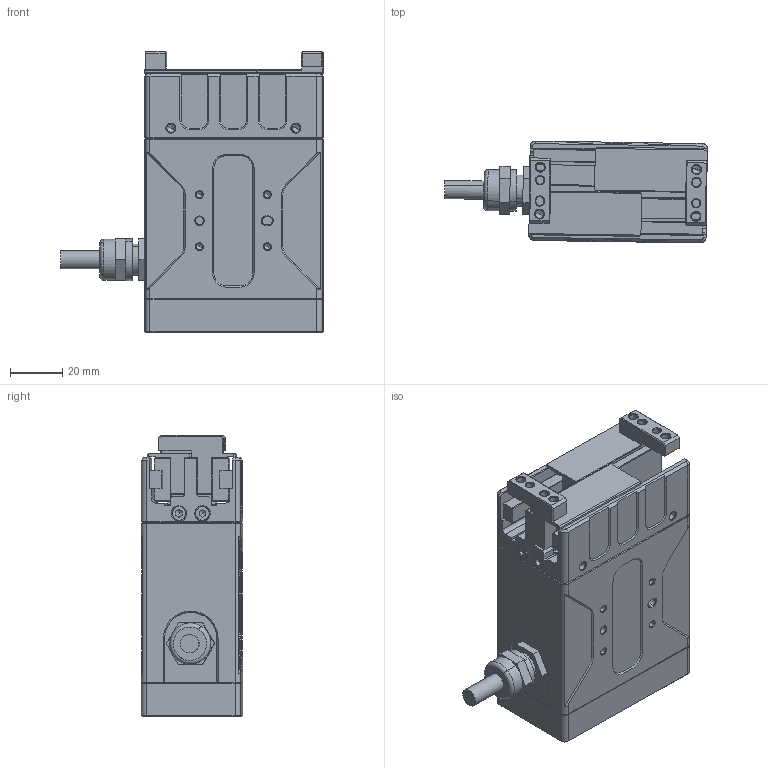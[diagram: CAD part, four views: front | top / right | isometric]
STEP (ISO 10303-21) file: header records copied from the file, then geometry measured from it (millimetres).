
FILE_DESCRIPTION(('CATIA V5 STEP Exchange'),'2;1');
FILE_NAME('E:\工作文件\EFG-50\50ALL-LMC客户图纸\完成\EFG-50 V1.0.stp','2022-06-21T07:06:46+00:00',('none'),('none'),'CATIA Version 5 Release 20 GA (IN-10)','CATIA V5 STEP AP203','none');
FILE_SCHEMA(('CONFIG_CONTROL_DESIGN'));
Length unit declared in the file: millimetre
Products named in the file (1): EFG-50 V1.0
Assembly tree (3 placements, depth 2):
  EFG-50 V1.0
    #58
    #21994
    #25082
Bounding box: 100.78 x 38.92 x 108 mm (x, y, z)
Volume: 243428.2 mm3; surface area: 45920.5 mm2
Topology: 3 solids, 13 shells, 941 faces, 2398 edges, 1502 vertices
Faces by surface type: plane 488, cylinder 228, cone 173, torus 34, bspline 16, extrusion 2
Entity records: 28153 total; most frequent: CARTESIAN_POINT 6868, ORIENTED_EDGE 4724, DIRECTION 3605, EDGE_CURVE 2362, VERTEX_POINT 1502, VECTOR 1471, LINE 1469, AXIS2_PLACEMENT_3D 1403
